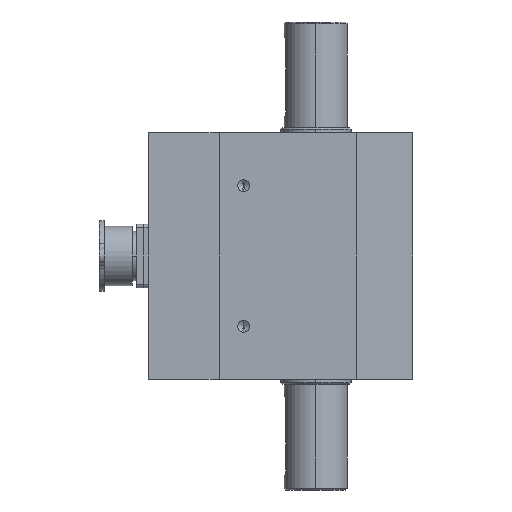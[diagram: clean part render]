
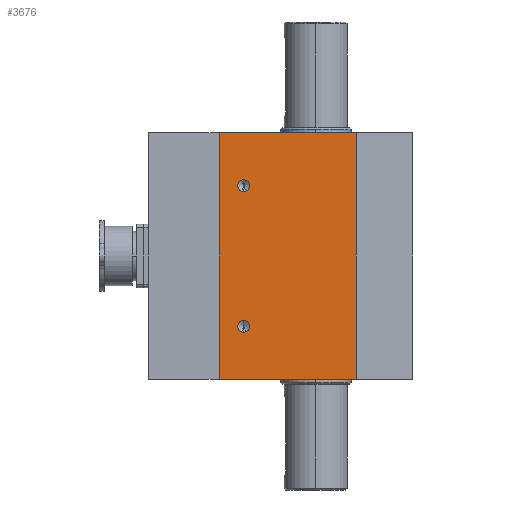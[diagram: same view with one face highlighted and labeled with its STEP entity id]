
A CAD part, left-side view. The second image highlights one B-rep face of the part: STEP entity #3676.
In plain terms, the highlighted planar face has unit normal (-1, 0, 0).
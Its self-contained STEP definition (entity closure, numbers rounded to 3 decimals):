
#64 = EDGE_LOOP ( 'NONE', ( #2582, #5114, #5734, #174 ) ) ;
#174 = ORIENTED_EDGE ( 'NONE', *, *, #4957, .T. ) ;
#288 = EDGE_CURVE ( 'NONE', #7446, #1164, #733, .T. ) ;
#445 = DIRECTION ( 'NONE',  ( 1., 0., 0. ) ) ;
#458 = CARTESIAN_POINT ( 'NONE',  ( -27.5, 20.5, 20. ) ) ;
#564 = AXIS2_PLACEMENT_3D ( 'NONE', #458, #4556, #1047 ) ;
#733 = LINE ( 'NONE', #2684, #6690 ) ;
#765 = CIRCLE ( 'NONE', #564, 1.65 ) ;
#795 = VERTEX_POINT ( 'NONE', #7004 ) ;
#802 = ORIENTED_EDGE ( 'NONE', *, *, #2820, .F. ) ;
#898 = DIRECTION ( 'NONE',  ( 0., 0., 1. ) ) ;
#973 = CIRCLE ( 'NONE', #6195, 1.65 ) ;
#1047 = DIRECTION ( 'NONE',  ( 0., 0., 1. ) ) ;
#1095 = LINE ( 'NONE', #4862, #5390 ) ;
#1164 = VERTEX_POINT ( 'NONE', #5393 ) ;
#1173 = AXIS2_PLACEMENT_3D ( 'NONE', #1606, #445, #4541 ) ;
#1487 = CARTESIAN_POINT ( 'NONE',  ( -27.5, -11.5, -62. ) ) ;
#1585 = CARTESIAN_POINT ( 'NONE',  ( -27.5, 20.5, 20. ) ) ;
#1606 = CARTESIAN_POINT ( 'NONE',  ( -27.5, 27.5, 35. ) ) ;
#1710 = CARTESIAN_POINT ( 'NONE',  ( -27.5, 27.5, 35. ) ) ;
#1722 = EDGE_CURVE ( 'NONE', #795, #2529, #973, .T. ) ;
#2004 = ORIENTED_EDGE ( 'NONE', *, *, #1722, .F. ) ;
#2186 = DIRECTION ( 'NONE',  ( 0., 0., 1. ) ) ;
#2261 = VECTOR ( 'NONE', #898, 1000. ) ;
#2442 = CARTESIAN_POINT ( 'NONE',  ( -27.5, 27.5, 35. ) ) ;
#2529 = VERTEX_POINT ( 'NONE', #7328 ) ;
#2568 = VERTEX_POINT ( 'NONE', #6606 ) ;
#2582 = ORIENTED_EDGE ( 'NONE', *, *, #288, .T. ) ;
#2613 = VECTOR ( 'NONE', #6532, 1000. ) ;
#2684 = CARTESIAN_POINT ( 'NONE',  ( -27.5, 27.5, -35. ) ) ;
#2820 = EDGE_CURVE ( 'NONE', #2529, #795, #3539, .T. ) ;
#2883 = FACE_OUTER_BOUND ( 'NONE', #64, .T. ) ;
#3032 = CARTESIAN_POINT ( 'NONE',  ( -27.5, 20.5, -20. ) ) ;
#3046 = EDGE_CURVE ( 'NONE', #1164, #4831, #3631, .T. ) ;
#3128 = AXIS2_PLACEMENT_3D ( 'NONE', #3032, #7136, #3622 ) ;
#3450 = CARTESIAN_POINT ( 'NONE',  ( -27.5, -11.5, 35. ) ) ;
#3511 = CARTESIAN_POINT ( 'NONE',  ( -27.5, 20.5, -20. ) ) ;
#3539 = CIRCLE ( 'NONE', #3128, 1.65 ) ;
#3622 = DIRECTION ( 'NONE',  ( 0., 0., 1. ) ) ;
#3631 = LINE ( 'NONE', #1487, #2261 ) ;
#3676 = ADVANCED_FACE ( 'NONE', ( #5998, #7382, #2883 ), #5685, .F. ) ;
#3999 = EDGE_LOOP ( 'NONE', ( #802, #2004 ) ) ;
#4525 = CARTESIAN_POINT ( 'NONE',  ( -27.5, 27.5, -35. ) ) ;
#4541 = DIRECTION ( 'NONE',  ( 0., 1., 0. ) ) ;
#4556 = DIRECTION ( 'NONE',  ( -1., 0., 0. ) ) ;
#4819 = EDGE_LOOP ( 'NONE', ( #5302, #5553 ) ) ;
#4827 = DIRECTION ( 'NONE',  ( -1., 0., 0. ) ) ;
#4831 = VERTEX_POINT ( 'NONE', #3450 ) ;
#4862 = CARTESIAN_POINT ( 'NONE',  ( -27.5, 27.5, 35. ) ) ;
#4957 = EDGE_CURVE ( 'NONE', #7034, #7446, #7087, .T. ) ;
#5114 = ORIENTED_EDGE ( 'NONE', *, *, #3046, .T. ) ;
#5302 = ORIENTED_EDGE ( 'NONE', *, *, #7430, .F. ) ;
#5390 = VECTOR ( 'NONE', #6654, 1000. ) ;
#5393 = CARTESIAN_POINT ( 'NONE',  ( -27.5, -11.5, -35. ) ) ;
#5553 = ORIENTED_EDGE ( 'NONE', *, *, #5840, .F. ) ;
#5657 = DIRECTION ( 'NONE',  ( -1., 0., 0. ) ) ;
#5685 = PLANE ( 'NONE',  #1173 ) ;
#5710 = CARTESIAN_POINT ( 'NONE',  ( -27.5, 20.5, 18.35 ) ) ;
#5734 = ORIENTED_EDGE ( 'NONE', *, *, #6783, .F. ) ;
#5840 = EDGE_CURVE ( 'NONE', #5910, #2568, #7522, .T. ) ;
#5910 = VERTEX_POINT ( 'NONE', #5710 ) ;
#5998 = FACE_BOUND ( 'NONE', #4819, .T. ) ;
#6195 = AXIS2_PLACEMENT_3D ( 'NONE', #3511, #4827, #6909 ) ;
#6532 = DIRECTION ( 'NONE',  ( 0., 0., -1. ) ) ;
#6606 = CARTESIAN_POINT ( 'NONE',  ( -27.5, 20.5, 21.65 ) ) ;
#6654 = DIRECTION ( 'NONE',  ( 0., -1., 0. ) ) ;
#6690 = VECTOR ( 'NONE', #6774, 1000. ) ;
#6774 = DIRECTION ( 'NONE',  ( 0., -1., 0. ) ) ;
#6783 = EDGE_CURVE ( 'NONE', #7034, #4831, #1095, .T. ) ;
#6909 = DIRECTION ( 'NONE',  ( 0., 0., 1. ) ) ;
#7004 = CARTESIAN_POINT ( 'NONE',  ( -27.5, 20.5, -21.65 ) ) ;
#7008 = AXIS2_PLACEMENT_3D ( 'NONE', #1585, #5657, #2186 ) ;
#7034 = VERTEX_POINT ( 'NONE', #1710 ) ;
#7087 = LINE ( 'NONE', #2442, #2613 ) ;
#7136 = DIRECTION ( 'NONE',  ( -1., 0., 0. ) ) ;
#7328 = CARTESIAN_POINT ( 'NONE',  ( -27.5, 20.5, -18.35 ) ) ;
#7382 = FACE_BOUND ( 'NONE', #3999, .T. ) ;
#7430 = EDGE_CURVE ( 'NONE', #2568, #5910, #765, .T. ) ;
#7446 = VERTEX_POINT ( 'NONE', #4525 ) ;
#7522 = CIRCLE ( 'NONE', #7008, 1.65 ) ;
